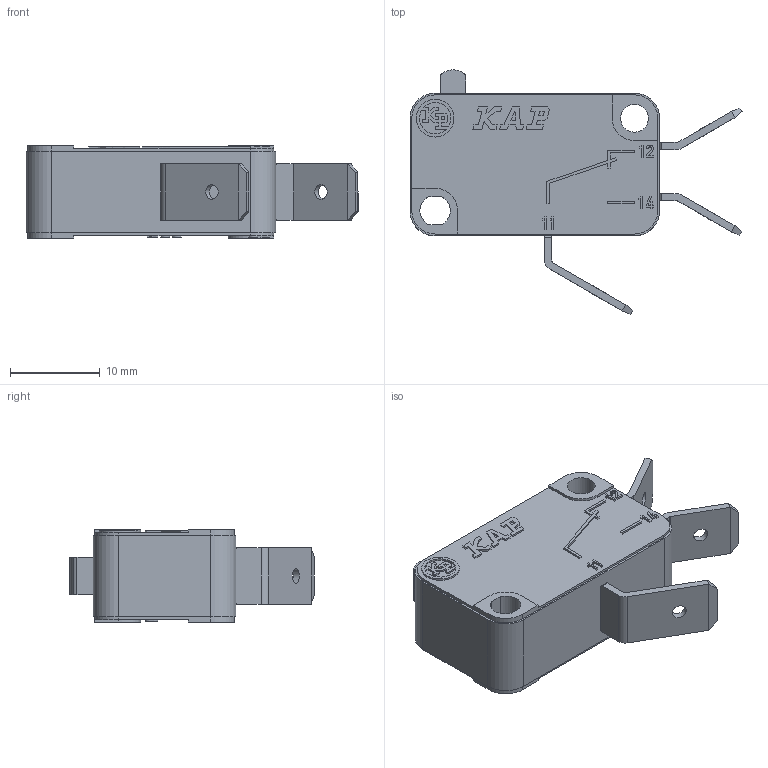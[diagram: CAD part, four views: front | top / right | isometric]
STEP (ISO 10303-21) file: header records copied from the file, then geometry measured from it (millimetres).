
FILE_DESCRIPTION(('Microrutor Miniatura Pino'),'2;1');
FILE_NAME('E:\WorkFolder\Bibl\3DWeb\Serie\MV\kp_mv_mv$afb$_step.stp','2011-08-22T15:16:07',('DIE'),('KAP'),'Autodesk Inventor 2011','Autodesk Inventor 2011','Direitos reservados. Proibido reproducao, cedencia ou revelacao de conteudo a terceiros, salvo com autorizacao.');
FILE_SCHEMA(('AUTOMOTIVE_DESIGN { 1 0 10303 214 1 1 1 1 }'));
Length unit declared in the file: millimetre
Products named in the file (1): Part2
Bounding box: 36.98 x 27.22 x 10.3 mm (x, y, z)
Volume: 4262.7 mm3; surface area: 2439.2 mm2
Topology: 1 solids, 1 shells, 371 faces, 996 edges, 661 vertices
Faces by surface type: plane 313, cylinder 58
Full cylindrical faces by diameter (mm): 1.6 x3, 3.1 x1, 4.2 x1
Entity records: 11826 total; most frequent: CARTESIAN_POINT 2018, ORIENTED_EDGE 1976, DIRECTION 1848, EDGE_CURVE 988, VECTOR 872, LINE 872, VERTEX_POINT 658, AXIS2_PLACEMENT_3D 488
